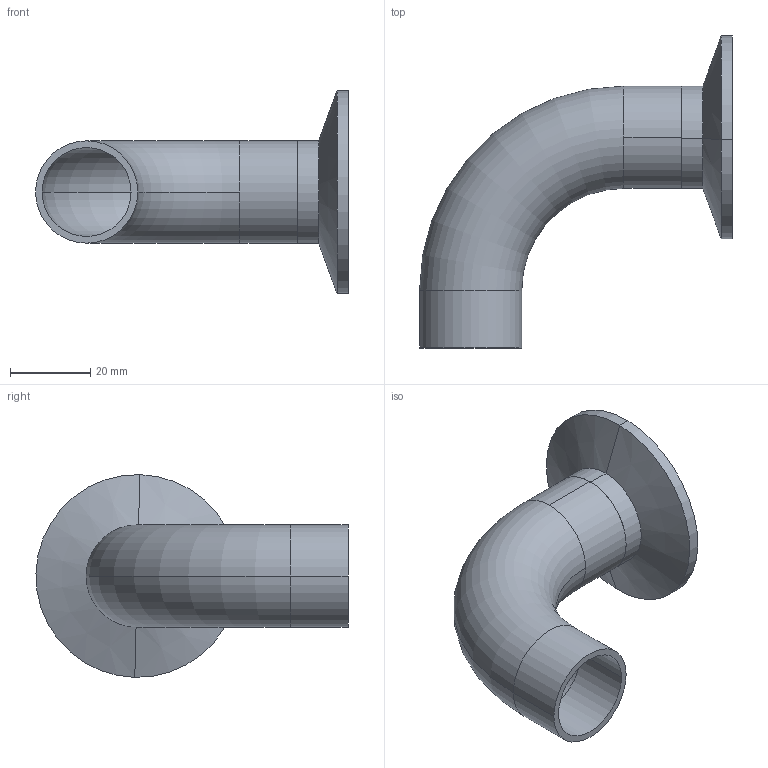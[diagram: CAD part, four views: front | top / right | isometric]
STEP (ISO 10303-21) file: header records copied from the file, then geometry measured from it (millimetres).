
FILE_DESCRIPTION (( 'STEP AP203' ), '1' );
FILE_NAME ('E2C1.0.STEP', '2018-04-30T15:39:05', ( 'vneprd' ), ( 'Microsoft' ), 'SwSTEP 2.0', 'SolidWorks 2014', '' );
FILE_SCHEMA (( 'CONFIG_CONTROL_DESIGN' ));
Length unit declared in the file: inch
Products named in the file (1): E2C1.0
Bounding box: 77.77 x 77.56 x 50.38 mm (x, y, z)
Surface area: 18642.7 mm2 (no closed solid volume)
Topology: 0 solids, 2 shells, 31 faces, 66 edges, 40 vertices
Faces by surface type: cylinder 14, torus 10, plane 5, cone 2
Entity records: 938 total; most frequent: DIRECTION 180, CARTESIAN_POINT 138, ORIENTED_EDGE 132, AXIS2_PLACEMENT_3D 82, EDGE_CURVE 66, CIRCLE 50, VERTEX_POINT 40, EDGE_LOOP 36
